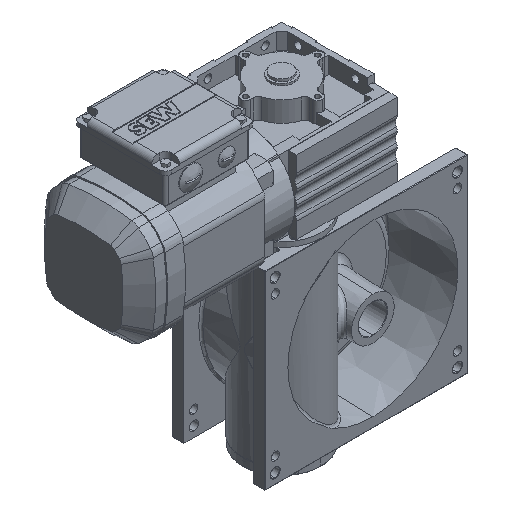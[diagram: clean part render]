
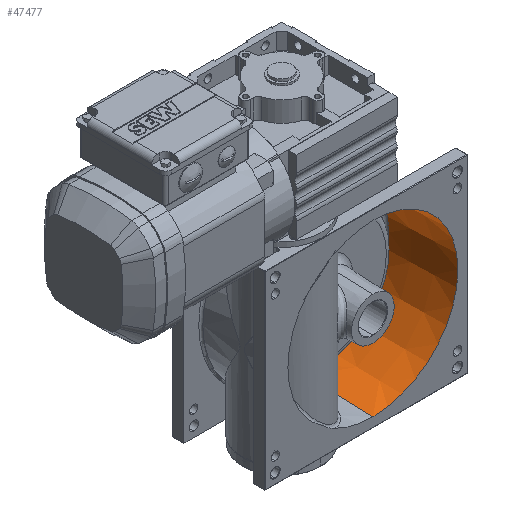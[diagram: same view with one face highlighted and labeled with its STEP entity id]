
A CAD part, isometric view. The second image highlights one B-rep face of the part: STEP entity #47477.
In plain terms, the highlighted conical face has half-angle 2 degrees and reference radius 104.105 mm.
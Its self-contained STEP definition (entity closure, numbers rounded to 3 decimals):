
#910 = EDGE_CURVE ( 'NONE', #52038, #13132, #3429, .T. ) ;
#3429 = CIRCLE ( 'NONE', #44089, 101.147 ) ;
#9110 = DIRECTION ( 'NONE',  ( 0., 0., 1. ) ) ;
#9632 = EDGE_CURVE ( 'NONE', #13132, #32716, #17695, .T. ) ;
#11663 = DIRECTION ( 'NONE',  ( 0., -0.999, -0.035 ) ) ;
#13132 = VERTEX_POINT ( 'NONE', #29381 ) ;
#14366 = DIRECTION ( 'NONE',  ( 0., 0., -1. ) ) ;
#15473 = VECTOR ( 'NONE', #11663, 1000. ) ;
#17695 = LINE ( 'NONE', #48464, #15473 ) ;
#18052 = EDGE_LOOP ( 'NONE', ( #40321, #47715, #42077, #43132 ) ) ;
#18185 = CARTESIAN_POINT ( 'NONE',  ( 0., 84.705, 101.147 ) ) ;
#23568 = VECTOR ( 'NONE', #57279, 1000. ) ;
#24087 = VERTEX_POINT ( 'NONE', #43963 ) ;
#26907 = CARTESIAN_POINT ( 'NONE',  ( 0., 3., -104. ) ) ;
#29381 = CARTESIAN_POINT ( 'NONE',  ( 0., 84.705, -101.147 ) ) ;
#31152 = EDGE_CURVE ( 'NONE', #52038, #24087, #63622, .T. ) ;
#31503 = DIRECTION ( 'NONE',  ( 0., 1., 0. ) ) ;
#32663 = EDGE_CURVE ( 'NONE', #24087, #32716, #36888, .T. ) ;
#32716 = VERTEX_POINT ( 'NONE', #26907 ) ;
#36888 = CIRCLE ( 'NONE', #69705, 104. ) ;
#40181 = FACE_OUTER_BOUND ( 'NONE', #18052, .T. ) ;
#40321 = ORIENTED_EDGE ( 'NONE', *, *, #31152, .F. ) ;
#40642 = CARTESIAN_POINT ( 'NONE',  ( 0., 0., 104.105 ) ) ;
#42077 = ORIENTED_EDGE ( 'NONE', *, *, #9632, .T. ) ;
#43132 = ORIENTED_EDGE ( 'NONE', *, *, #32663, .F. ) ;
#43963 = CARTESIAN_POINT ( 'NONE',  ( 0., 3., 104. ) ) ;
#44089 = AXIS2_PLACEMENT_3D ( 'NONE', #57214, #57554, #9110 ) ;
#47477 = ADVANCED_FACE ( 'NONE', ( #40181 ), #68901, .F. ) ;
#47715 = ORIENTED_EDGE ( 'NONE', *, *, #910, .T. ) ;
#48464 = CARTESIAN_POINT ( 'NONE',  ( 0., 0., -104.105 ) ) ;
#51855 = DIRECTION ( 'NONE',  ( 0., -1., 0. ) ) ;
#52038 = VERTEX_POINT ( 'NONE', #18185 ) ;
#52737 = CARTESIAN_POINT ( 'NONE',  ( 0., 3., 0. ) ) ;
#57214 = CARTESIAN_POINT ( 'NONE',  ( 0., 84.705, 0. ) ) ;
#57279 = DIRECTION ( 'NONE',  ( 0., -0.999, 0.035 ) ) ;
#57554 = DIRECTION ( 'NONE',  ( 0., 1., 0. ) ) ;
#63327 = DIRECTION ( 'NONE',  ( 0., 0., -1. ) ) ;
#63622 = LINE ( 'NONE', #40642, #23568 ) ;
#67741 = AXIS2_PLACEMENT_3D ( 'NONE', #68129, #51855, #14366 ) ;
#68129 = CARTESIAN_POINT ( 'NONE',  ( 0., 0., 0. ) ) ;
#68901 = CONICAL_SURFACE ( 'NONE', #67741, 104.105, 0.035 ) ;
#69705 = AXIS2_PLACEMENT_3D ( 'NONE', #52737, #31503, #63327 ) ;
